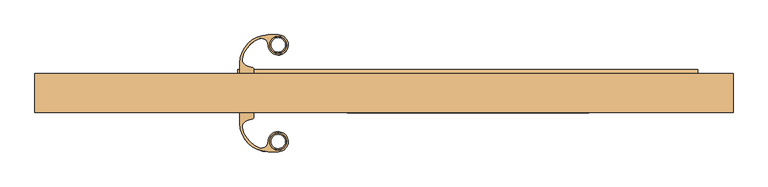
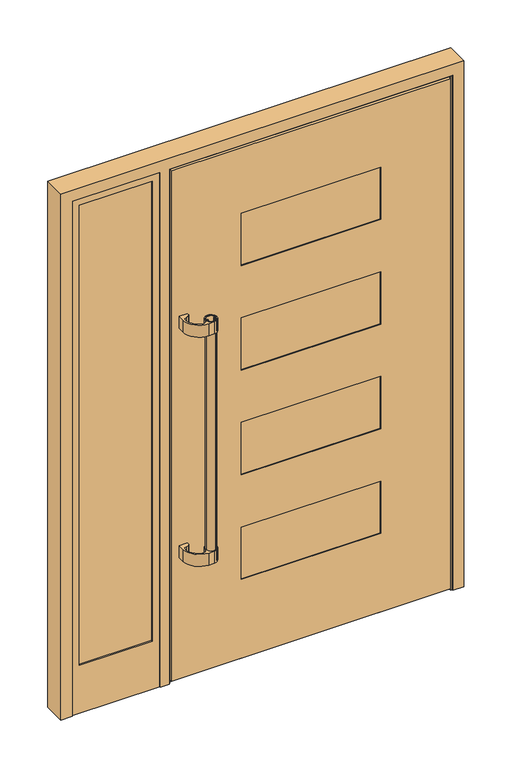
"""IFC4 building model written with IfcOpenShell, lengths in millimetres: door geometry, Jednokrilna vrata s fiksnim poljem : staklo."""

from ifc_helpers import new_model, si_unit, point, frame, frame_2d, origin, place, context, project, spatial, polyline, circle_curve, trimmed, segment, composite_curve, outline, extrude, faceted_brep, source, transform, mapped, element, save
from ifc_brep_helpers import plane_surface, cylinder_surface, advanced_brep


def door_73f70f86(model_context):
    return source(origin(), model_context, "Body", "SolidModel", [
        extrude(outline(composite_curve([segment(trimmed(circle_curve(frame_2d((-174.1484072, 128.9438952)), 19.0), [point((-193.1484072, 128.9438952))], [point((-155.1484072, 128.9438952))], False, "CARTESIAN"), True, "CONTINUOUS"), segment(trimmed(circle_curve(frame_2d((-174.1484072, 128.9438952)), 19.0), [point((-155.1484072, 128.9438952))], [point((-193.1484072, 128.9438952))], False, "CARTESIAN"), True, "CONTINUOUS")], self_intersect=False), holes=[composite_curve([segment(trimmed(circle_curve(frame_2d((-188.6084072, 128.9438952)), 1.55), [point((-187.5123917, 130.0399107))], [point((-187.5123917, 127.8478797))], True, "CARTESIAN"), True, "CONTINUOUS"), segment(polyline([(-187.5123917, 127.8478797), (-186.3657905, 127.8478797), (-186.3657905, 126.8767304)]), True, "CONTINUOUS"), segment(trimmed(circle_curve(frame_2d((-188.6084072, 128.9438952)), 3.05), [point((-186.3657905, 126.8767304))], [point((-188.6084072, 125.8938952))], False, "CARTESIAN"), True, "CONTINUOUS"), segment(polyline([(-188.6084072, 125.8938952), (-189.8550141, 125.8938952)]), True, "CONTINUOUS"), segment(trimmed(circle_curve(frame_2d((-174.1484072, 128.9438952)), 16.0), [point((-189.8550141, 125.8938952))], [point((-158.4418003, 125.8938952))], True, "CARTESIAN"), True, "CONTINUOUS"), segment(polyline([(-158.4418003, 125.8938952), (-159.6484072, 125.8938952)]), True, "CONTINUOUS"), segment(trimmed(circle_curve(frame_2d((-159.6484072, 128.9438952)), 3.05), [point((-159.6484072, 125.8938952))], [point((-161.891024, 126.8767304))], False, "CARTESIAN"), True, "CONTINUOUS"), segment(polyline([(-161.891024, 126.8767304), (-161.891024, 127.8478797), (-160.7444227, 127.8478797)]), True, "CONTINUOUS"), segment(trimmed(circle_curve(frame_2d((-159.6484072, 128.9438952)), 1.55), [point((-160.7444227, 127.8478797))], [point((-160.7444227, 130.0399107))], True, "CARTESIAN"), True, "CONTINUOUS"), segment(polyline([(-160.7444227, 130.0399107), (-161.891024, 130.0399107), (-161.891024, 131.0110599)]), True, "CONTINUOUS"), segment(trimmed(circle_curve(frame_2d((-159.6484072, 128.9438952)), 3.05), [point((-161.891024, 131.0110599))], [point((-159.6484072, 131.9938952))], False, "CARTESIAN"), True, "CONTINUOUS"), segment(polyline([(-159.6484072, 131.9938952), (-158.4418003, 131.9938952)]), True, "CONTINUOUS"), segment(trimmed(circle_curve(frame_2d((-174.1484072, 128.9438952)), 16.0), [point((-158.4418003, 131.9938952))], [point((-189.8550141, 131.9938952))], True, "CARTESIAN"), True, "CONTINUOUS"), segment(polyline([(-189.8550141, 131.9938952), (-188.6084072, 131.9938952)]), True, "CONTINUOUS"), segment(trimmed(circle_curve(frame_2d((-188.6084072, 128.9438952)), 3.05), [point((-188.6084072, 131.9938952))], [point((-186.3657905, 131.0110599))], False, "CARTESIAN"), True, "CONTINUOUS"), segment(polyline([(-186.3657905, 131.0110599), (-186.3657905, 130.0399107), (-187.5123917, 130.0399107)]), True, "CONTINUOUS")], self_intersect=False)]), frame((0.0, 0.0, 521.625), z_axis=(0.0, 0.0, 1.0), x_axis=(1.0, 0.0, 0.0)), (0.0, 0.0, 1.0), 1000.0),
        extrude(outline(composite_curve([segment(polyline([(-255.6952843, 63.4961329), (-260.6952843, 63.4961329), (-260.6952843, 87.6938952)]), True, "CONTINUOUS"), segment(trimmed(circle_curve(frame_2d((-196.6980434, 87.6938952)), 63.997241), [point((-260.6952843, 87.6938952))], [point((-196.6980434, 151.6911361))], False, "CARTESIAN"), True, "CONTINUOUS"), segment(polyline([(-196.6980434, 151.6911361), (-173.7941065, 151.6911361)]), True, "CONTINUOUS"), segment(trimmed(circle_curve(frame_2d((-174.2125516, 128.7515875)), 22.9433648), [point((-173.7941065, 151.6911361))], [point((-160.7762927, 147.3490318))], False, "CARTESIAN"), True, "CONTINUOUS"), segment(trimmed(circle_curve(frame_2d((-174.07067, 128.9479692)), 22.7010919), [point((-160.7762927, 147.3490318))], [point((-158.9256859, 112.0373504))], False, "CARTESIAN"), True, "CONTINUOUS"), segment(trimmed(circle_curve(frame_2d((-174.1534657, 129.0404174)), 22.8251959), [point((-158.9256859, 112.0373504))], [point((-187.5205217, 110.5387586))], False, "CARTESIAN"), True, "CONTINUOUS"), segment(trimmed(circle_curve(frame_2d((-174.2667746, 128.883584)), 22.631713), [point((-187.5205217, 110.5387586))], [point((-196.8984072, 128.9438952))], False, "CARTESIAN"), True, "CONTINUOUS"), segment(trimmed(circle_curve(frame_2d((-211.8983989, 128.9838687)), 15.0000449), [point((-196.8984072, 128.9438952))], [point((-217.066261, 143.0655784))], True, "CARTESIAN"), True, "CONTINUOUS"), segment(trimmed(circle_curve(frame_2d((-196.7676216, 87.7545934)), 58.9180773), [point((-217.066261, 143.0655784))], [point((-254.7631303, 98.1401991))], True, "CARTESIAN"), True, "CONTINUOUS"), segment(trimmed(circle_curve(frame_2d((-240.048263, 95.2098114)), 15.0038159), [point((-254.7631303, 98.1401991))], [point((-243.9315363, 80.7172381))], True, "CARTESIAN"), True, "CONTINUOUS"), segment(polyline([(-243.9315363, 80.7172381), (-232.4011891, 77.6276909)]), True, "CONTINUOUS"), segment(trimmed(circle_curve(frame_2d((-233.6952843, 72.7980618)), 5.0), [point((-232.4011891, 77.6276909))], [point((-228.6952843, 72.7980618))], False, "CARTESIAN"), True, "CONTINUOUS"), segment(polyline([(-228.6952843, 72.7980618), (-228.6952843, 63.4961329), (-255.6952843, 63.4961329)]), True, "CONTINUOUS")], self_intersect=False), holes=[composite_curve([segment(trimmed(circle_curve(frame_2d((-174.1484072, 128.9438952)), 19.25), [point((-193.3984072, 128.9438952))], [point((-154.8984072, 128.9438952))], True, "CARTESIAN"), True, "CONTINUOUS"), segment(trimmed(circle_curve(frame_2d((-174.1484072, 128.9438952)), 19.25), [point((-154.8984072, 128.9438952))], [point((-193.3984072, 128.9438952))], True, "CARTESIAN"), True, "CONTINUOUS")], self_intersect=False)]), frame((0.0, 0.0, 1471.625), z_axis=(0.0, 0.0, 1.0), x_axis=(1.0, 0.0, 0.0)), (0.0, 0.0, 1.0), 50.0),
        extrude(outline(composite_curve([segment(polyline([(-255.6952843, 63.4961329), (-260.6952843, 63.4961329), (-260.6952843, 87.6938952)]), True, "CONTINUOUS"), segment(trimmed(circle_curve(frame_2d((-196.6980434, 87.6938952)), 63.997241), [point((-260.6952843, 87.6938952))], [point((-196.6980434, 151.6911361))], False, "CARTESIAN"), True, "CONTINUOUS"), segment(polyline([(-196.6980434, 151.6911361), (-173.7941065, 151.6911361)]), True, "CONTINUOUS"), segment(trimmed(circle_curve(frame_2d((-174.2125516, 128.7515875)), 22.9433648), [point((-173.7941065, 151.6911361))], [point((-160.7762927, 147.3490318))], False, "CARTESIAN"), True, "CONTINUOUS"), segment(trimmed(circle_curve(frame_2d((-174.07067, 128.9479692)), 22.7010919), [point((-160.7762927, 147.3490318))], [point((-158.9256859, 112.0373504))], False, "CARTESIAN"), True, "CONTINUOUS"), segment(trimmed(circle_curve(frame_2d((-174.1534657, 129.0404174)), 22.8251959), [point((-158.9256859, 112.0373504))], [point((-187.5205217, 110.5387586))], False, "CARTESIAN"), True, "CONTINUOUS"), segment(trimmed(circle_curve(frame_2d((-174.2667746, 128.883584)), 22.631713), [point((-187.5205217, 110.5387586))], [point((-196.8984072, 128.9438952))], False, "CARTESIAN"), True, "CONTINUOUS"), segment(trimmed(circle_curve(frame_2d((-211.8983989, 128.9838687)), 15.0000449), [point((-196.8984072, 128.9438952))], [point((-217.066261, 143.0655784))], True, "CARTESIAN"), True, "CONTINUOUS"), segment(trimmed(circle_curve(frame_2d((-196.7676216, 87.7545934)), 58.9180773), [point((-217.066261, 143.0655784))], [point((-254.7631303, 98.1401991))], True, "CARTESIAN"), True, "CONTINUOUS"), segment(trimmed(circle_curve(frame_2d((-240.048263, 95.2098114)), 15.0038159), [point((-254.7631303, 98.1401991))], [point((-243.9315363, 80.7172381))], True, "CARTESIAN"), True, "CONTINUOUS"), segment(polyline([(-243.9315363, 80.7172381), (-232.4011891, 77.6276909)]), True, "CONTINUOUS"), segment(trimmed(circle_curve(frame_2d((-233.6952843, 72.7980618)), 5.0), [point((-232.4011891, 77.6276909))], [point((-228.6952843, 72.7980618))], False, "CARTESIAN"), True, "CONTINUOUS"), segment(polyline([(-228.6952843, 72.7980618), (-228.6952843, 63.4961329), (-255.6952843, 63.4961329)]), True, "CONTINUOUS")], self_intersect=False), holes=[composite_curve([segment(trimmed(circle_curve(frame_2d((-174.1484072, 128.9438952)), 19.25), [point((-193.3984072, 128.9438952))], [point((-154.8984072, 128.9438952))], True, "CARTESIAN"), True, "CONTINUOUS"), segment(trimmed(circle_curve(frame_2d((-174.1484072, 128.9438952)), 19.25), [point((-154.8984072, 128.9438952))], [point((-193.3984072, 128.9438952))], True, "CARTESIAN"), True, "CONTINUOUS")], self_intersect=False)]), frame((0.0, 0.0, 521.625), z_axis=(0.0, 0.0, 1.0), x_axis=(1.0, 0.0, 0.0)), (0.0, 0.0, 1.0), 50.0),
        extrude(outline(composite_curve([segment(trimmed(circle_curve(frame_2d((-174.1484072, -90.4477622)), 19.0), [point((-193.1484072, -90.4477622))], [point((-155.1484072, -90.4477622))], False, "CARTESIAN"), True, "CONTINUOUS"), segment(trimmed(circle_curve(frame_2d((-174.1484072, -90.4477622)), 19.0), [point((-155.1484072, -90.4477622))], [point((-193.1484072, -90.4477622))], False, "CARTESIAN"), True, "CONTINUOUS")], self_intersect=False), holes=[composite_curve([segment(polyline([(-187.5123917, -91.5437777), (-186.3657905, -91.5437777), (-186.3657905, -92.514927)]), True, "CONTINUOUS"), segment(trimmed(circle_curve(frame_2d((-188.6084072, -90.4477622)), 3.05), [point((-186.3657905, -92.514927))], [point((-188.6084072, -93.4977622))], False, "CARTESIAN"), True, "CONTINUOUS"), segment(polyline([(-188.6084072, -93.4977622), (-189.8550141, -93.4977622)]), True, "CONTINUOUS"), segment(trimmed(circle_curve(frame_2d((-174.1484072, -90.4477622)), 16.0), [point((-189.8550141, -93.4977622))], [point((-158.4418003, -93.4977622))], True, "CARTESIAN"), True, "CONTINUOUS"), segment(polyline([(-158.4418003, -93.4977622), (-159.6484072, -93.4977622)]), True, "CONTINUOUS"), segment(trimmed(circle_curve(frame_2d((-159.6484072, -90.4477622)), 3.05), [point((-159.6484072, -93.4977622))], [point((-161.891024, -92.514927))], False, "CARTESIAN"), True, "CONTINUOUS"), segment(polyline([(-161.891024, -92.514927), (-161.891024, -91.5437777), (-160.7444227, -91.5437777)]), True, "CONTINUOUS"), segment(trimmed(circle_curve(frame_2d((-159.6484072, -90.4477622)), 1.55), [point((-160.7444227, -91.5437777))], [point((-160.7444227, -89.3517467))], True, "CARTESIAN"), True, "CONTINUOUS"), segment(polyline([(-160.7444227, -89.3517467), (-161.891024, -89.3517467), (-161.891024, -88.3805975)]), True, "CONTINUOUS"), segment(trimmed(circle_curve(frame_2d((-159.6484072, -90.4477622)), 3.05), [point((-161.891024, -88.3805975))], [point((-159.6484072, -87.3977622))], False, "CARTESIAN"), True, "CONTINUOUS"), segment(polyline([(-159.6484072, -87.3977622), (-158.4418003, -87.3977622)]), True, "CONTINUOUS"), segment(trimmed(circle_curve(frame_2d((-174.1484072, -90.4477622)), 16.0), [point((-158.4418003, -87.3977622))], [point((-189.8550141, -87.3977622))], True, "CARTESIAN"), True, "CONTINUOUS"), segment(polyline([(-189.8550141, -87.3977622), (-188.6084072, -87.3977622)]), True, "CONTINUOUS"), segment(trimmed(circle_curve(frame_2d((-188.6084072, -90.4477622)), 3.05), [point((-188.6084072, -87.3977622))], [point((-186.3657905, -88.3805975))], False, "CARTESIAN"), True, "CONTINUOUS"), segment(polyline([(-186.3657905, -88.3805975), (-186.3657905, -89.3517467), (-187.5123917, -89.3517467)]), True, "CONTINUOUS"), segment(trimmed(circle_curve(frame_2d((-188.6084072, -90.4477622)), 1.55), [point((-187.5123917, -89.3517467))], [point((-187.5123917, -91.5437777))], True, "CARTESIAN"), True, "CONTINUOUS")], self_intersect=False)]), frame((0.0, 0.0, 521.625), z_axis=(0.0, 0.0, 1.0), x_axis=(1.0, 0.0, 0.0)), (0.0, 0.0, 1.0), 1000.0),
        extrude(outline(composite_curve([segment(polyline([(-255.6952843, -25.0), (-228.6952843, -25.0), (-228.6952843, -34.3019289)]), True, "CONTINUOUS"), segment(trimmed(circle_curve(frame_2d((-233.6952843, -34.3019289)), 5.0), [point((-228.6952843, -34.3019289))], [point((-232.4011891, -39.131558))], False, "CARTESIAN"), True, "CONTINUOUS"), segment(polyline([(-232.4011891, -39.131558), (-243.9315363, -42.2211052)]), True, "CONTINUOUS"), segment(trimmed(circle_curve(frame_2d((-240.048263, -56.7136785)), 15.0038159), [point((-243.9315363, -42.2211052))], [point((-254.7631303, -59.6440661))], True, "CARTESIAN"), True, "CONTINUOUS"), segment(trimmed(circle_curve(frame_2d((-196.7676216, -49.2584604)), 58.9180773), [point((-254.7631303, -59.6440661))], [point((-217.066261, -104.5694455))], True, "CARTESIAN"), True, "CONTINUOUS"), segment(trimmed(circle_curve(frame_2d((-211.8983989, -90.4877358)), 15.0000449), [point((-217.066261, -104.5694455))], [point((-196.8984072, -90.4477622))], True, "CARTESIAN"), True, "CONTINUOUS"), segment(trimmed(circle_curve(frame_2d((-174.2667746, -90.3874511)), 22.631713), [point((-196.8984072, -90.4477622))], [point((-187.5205217, -72.0426256))], False, "CARTESIAN"), True, "CONTINUOUS"), segment(trimmed(circle_curve(frame_2d((-174.1534657, -90.5442845)), 22.8251959), [point((-187.5205217, -72.0426256))], [point((-158.9256859, -73.5412175))], False, "CARTESIAN"), True, "CONTINUOUS"), segment(trimmed(circle_curve(frame_2d((-174.07067, -90.4518363)), 22.7010919), [point((-158.9256859, -73.5412175))], [point((-160.7762927, -108.8528989))], False, "CARTESIAN"), True, "CONTINUOUS"), segment(trimmed(circle_curve(frame_2d((-174.2125516, -90.2554545)), 22.9433648), [point((-160.7762927, -108.8528989))], [point((-173.7941065, -113.1950032))], False, "CARTESIAN"), True, "CONTINUOUS"), segment(polyline([(-173.7941065, -113.1950032), (-196.6980434, -113.1950032)]), True, "CONTINUOUS"), segment(trimmed(circle_curve(frame_2d((-196.6980434, -49.1977622)), 63.997241), [point((-196.6980434, -113.1950032))], [point((-260.6952843, -49.1977622))], False, "CARTESIAN"), True, "CONTINUOUS"), segment(polyline([(-260.6952843, -49.1977622), (-260.6952843, -25.0), (-255.6952843, -25.0)]), True, "CONTINUOUS")], self_intersect=False), holes=[composite_curve([segment(trimmed(circle_curve(frame_2d((-174.1484072, -90.4477622)), 19.25), [point((-193.3984072, -90.4477622))], [point((-154.8984072, -90.4477622))], True, "CARTESIAN"), True, "CONTINUOUS"), segment(trimmed(circle_curve(frame_2d((-174.1484072, -90.4477622)), 19.25), [point((-154.8984072, -90.4477622))], [point((-193.3984072, -90.4477622))], True, "CARTESIAN"), True, "CONTINUOUS")], self_intersect=False)]), frame((0.0, 0.0, 1471.625), z_axis=(0.0, 0.0, 1.0), x_axis=(1.0, 0.0, 0.0)), (0.0, 0.0, 1.0), 50.0),
        extrude(outline(composite_curve([segment(polyline([(-255.6952843, -25.0), (-228.6952843, -25.0), (-228.6952843, -34.3019289)]), True, "CONTINUOUS"), segment(trimmed(circle_curve(frame_2d((-233.6952843, -34.3019289)), 5.0), [point((-228.6952843, -34.3019289))], [point((-232.4011891, -39.131558))], False, "CARTESIAN"), True, "CONTINUOUS"), segment(polyline([(-232.4011891, -39.131558), (-243.9315363, -42.2211052)]), True, "CONTINUOUS"), segment(trimmed(circle_curve(frame_2d((-240.048263, -56.7136785)), 15.0038159), [point((-243.9315363, -42.2211052))], [point((-254.7631303, -59.6440661))], True, "CARTESIAN"), True, "CONTINUOUS"), segment(trimmed(circle_curve(frame_2d((-196.7676216, -49.2584604)), 58.9180773), [point((-254.7631303, -59.6440661))], [point((-217.066261, -104.5694455))], True, "CARTESIAN"), True, "CONTINUOUS"), segment(trimmed(circle_curve(frame_2d((-211.8983989, -90.4877358)), 15.0000449), [point((-217.066261, -104.5694455))], [point((-196.8984072, -90.4477622))], True, "CARTESIAN"), True, "CONTINUOUS"), segment(trimmed(circle_curve(frame_2d((-174.2667746, -90.3874511)), 22.631713), [point((-196.8984072, -90.4477622))], [point((-187.5205217, -72.0426256))], False, "CARTESIAN"), True, "CONTINUOUS"), segment(trimmed(circle_curve(frame_2d((-174.1534657, -90.5442845)), 22.8251959), [point((-187.5205217, -72.0426256))], [point((-158.9256859, -73.5412175))], False, "CARTESIAN"), True, "CONTINUOUS"), segment(trimmed(circle_curve(frame_2d((-174.07067, -90.4518363)), 22.7010919), [point((-158.9256859, -73.5412175))], [point((-160.7762927, -108.8528989))], False, "CARTESIAN"), True, "CONTINUOUS"), segment(trimmed(circle_curve(frame_2d((-174.2125516, -90.2554545)), 22.9433648), [point((-160.7762927, -108.8528989))], [point((-173.7941065, -113.1950032))], False, "CARTESIAN"), True, "CONTINUOUS"), segment(polyline([(-173.7941065, -113.1950032), (-196.6980434, -113.1950032)]), True, "CONTINUOUS"), segment(trimmed(circle_curve(frame_2d((-196.6980434, -49.1977622)), 63.997241), [point((-196.6980434, -113.1950032))], [point((-260.6952843, -49.1977622))], False, "CARTESIAN"), True, "CONTINUOUS"), segment(polyline([(-260.6952843, -49.1977622), (-260.6952843, -25.0), (-255.6952843, -25.0)]), True, "CONTINUOUS")], self_intersect=False), holes=[composite_curve([segment(trimmed(circle_curve(frame_2d((-174.1484072, -90.4477622)), 19.25), [point((-193.3984072, -90.4477622))], [point((-154.8984072, -90.4477622))], True, "CARTESIAN"), True, "CONTINUOUS"), segment(trimmed(circle_curve(frame_2d((-174.1484072, -90.4477622)), 19.25), [point((-154.8984072, -90.4477622))], [point((-193.3984072, -90.4477622))], True, "CARTESIAN"), True, "CONTINUOUS")], self_intersect=False)]), frame((0.0, 0.0, 521.625), z_axis=(0.0, 0.0, 1.0), x_axis=(1.0, 0.0, 0.0)), (0.0, 0.0, 1.0), 50.0),
        extrude(outline(polyline([(528.5040773, 59.8961329), (528.5040773, -21.5), (-17.4993605, -21.5), (-17.4993605, 59.8961329), (528.5040773, 59.8961329)])), frame((0.0, 0.0, 299.175), z_axis=(0.0, 0.0, 1.0), x_axis=(1.0, 0.0, 0.0)), (0.0, 0.0, 1.0), 1626.0921048),
        faceted_brep([(776.0001619, 55.0006316, 34.3057913), (776.0001619, 56.2006316, 34.3057913), (776.0001619, 56.2006316, 43.8984108), (776.0001619, 64.4629528, 43.8984108), (776.0001619, 72.0042669, 35.8113415), (776.0001619, 72.0042669, 33.9357913), (776.0001619, 73.5042669, 33.9357913), (776.0001619, 73.5042669, 35.9623235), (776.0001619, 65.0744489, 45.0021965), (776.0001619, 63.4961329, 45.0021965), (776.0001619, 63.4961329, 2110.4978035), (776.0001619, 55.0006316, 2110.4978035), (-264.9954451, 55.0006316, 34.3057913), (-264.9954451, 56.2006316, 34.3057913), (-264.9954451, 56.2006316, 43.8984108), (-264.9954451, 64.4629528, 43.8984108), (-264.9954451, 72.0042669, 35.8113415), (-264.9954451, 72.0042669, 33.9357913), (-264.9954451, 73.5042669, 33.9357913), (-264.9954451, 73.5042669, 35.9623235), (-264.9954451, 65.0744489, 45.0021965), (-264.9954451, 63.4961329, 45.0021965), (-264.9954451, 63.4961329, 2110.4978035), (528.5040773, 63.4961329, 996.34125), (-17.4993605, 63.4961329, 996.34125), (-17.4993605, 63.4961329, 779.4525), (528.5040773, 63.4961329, 779.4525), (528.5040773, 63.4961329, 562.56375), (-17.4993605, 63.4961329, 562.56375), (-17.4993605, 63.4961329, 345.675), (528.5040773, 63.4961329, 345.675), (528.5040773, 63.4961329, 1863.89625), (-17.4993605, 63.4961329, 1863.89625), (-17.4993605, 63.4961329, 1647.0075), (528.5040773, 63.4961329, 1647.0075), (528.5040773, 63.4961329, 1430.11875), (-17.4993605, 63.4961329, 1430.11875), (-17.4993605, 63.4961329, 1213.23), (528.5040773, 63.4961329, 1213.23), (790.0, 55.0006316, 2124.4976416), (790.0, 55.0006316, 31.0023584), (-278.9952832, 55.0006316, 31.0023584), (-278.9952832, 55.0006316, 2124.4976416), (-264.9954451, 55.0006316, 2110.4978035), (720.5040773, -21.5, 2055.0017189), (720.5040773, 59.8961329, 2055.0017189), (720.5040773, 59.8961329, 100.4982811), (720.5040773, -21.5, 100.4982811), (-209.4993605, 59.8961329, 2055.0017189), (-209.4993605, 59.8961329, 100.4982811), (-17.4993605, 59.8961329, 996.34125), (528.5040773, 59.8961329, 996.34125), (528.5040773, 59.8961329, 779.4525), (-17.4993605, 59.8961329, 779.4525), (-17.4993605, 59.8961329, 562.56375), (528.5040773, 59.8961329, 562.56375), (528.5040773, 59.8961329, 345.675), (-17.4993605, 59.8961329, 345.675), (-17.4993605, 59.8961329, 1863.89625), (528.5040773, 59.8961329, 1863.89625), (528.5040773, 59.8961329, 1647.0075), (-17.4993605, 59.8961329, 1647.0075), (-17.4993605, 59.8961329, 1430.11875), (528.5040773, 59.8961329, 1430.11875), (528.5040773, 59.8961329, 1213.23), (-17.4993605, 59.8961329, 1213.23), (-209.4993605, -21.5, 100.4982811), (-209.4993605, -21.5, 2055.0017189), (528.5040773, -21.5, 996.34125), (-17.4993605, -21.5, 996.34125), (-17.4993605, -21.5, 779.4525), (528.5040773, -21.5, 779.4525), (528.5040773, -21.5, 562.56375), (-17.4993605, -21.5, 562.56375), (-17.4993605, -21.5, 345.675), (528.5040773, -21.5, 345.675), (528.5040773, -21.5, 1863.89625), (-17.4993605, -21.5, 1863.89625), (-17.4993605, -21.5, 1647.0075), (528.5040773, -21.5, 1647.0075), (528.5040773, -21.5, 1430.11875), (-17.4993605, -21.5, 1430.11875), (-17.4993605, -21.5, 1213.23), (528.5040773, -21.5, 1213.23), (801.0000012, -25.0, 2135.4976428), (-289.9952843, -25.0, 2135.4976428), (-289.9952843, -25.0, 20.0023572), (801.0000012, -25.0, 20.0023572), (-17.4993605, -25.0, 996.34125), (528.5040773, -25.0, 996.34125), (528.5040773, -25.0, 779.4525), (-17.4993605, -25.0, 779.4525), (-17.4993605, -25.0, 562.56375), (528.5040773, -25.0, 562.56375), (528.5040773, -25.0, 345.675), (-17.4993605, -25.0, 345.675), (-17.4993605, -25.0, 1863.89625), (528.5040773, -25.0, 1863.89625), (528.5040773, -25.0, 1647.0075), (-17.4993605, -25.0, 1647.0075), (-17.4993605, -25.0, 1430.11875), (528.5040773, -25.0, 1430.11875), (528.5040773, -25.0, 1213.23), (-17.4993605, -25.0, 1213.23), (801.0000012, -13.0033697, 20.0023572), (801.0000012, -13.0033697, 2135.4976428), (-289.9952843, -13.0033697, 20.0023572), (-289.9952843, -13.0033697, 2135.4976428), (790.0, -13.0033697, 31.0023584), (790.0, -13.0033697, 2124.4976416), (-278.9952832, -13.0033697, 2124.4976416), (-278.9952832, -13.0033697, 31.0023584)], [[[0, 1, 2, 3, 4, 5, 6, 7, 8, 9, 10, 11]], [[12, 13, 1, 0]], [[13, 14, 2, 1]], [[14, 15, 3, 2]], [[15, 16, 4, 3]], [[16, 17, 5, 4]], [[17, 18, 6, 5]], [[18, 19, 7, 6]], [[19, 20, 8, 7]], [[8, 20, 21, 9]], [[10, 9, 21, 22], [23, 24, 25, 26], [27, 28, 29, 30], [31, 32, 33, 34], [35, 36, 37, 38]], [[39, 40, 41, 42], [0, 11, 43, 12]], [[44, 45, 46, 47]], [[46, 45, 48, 49], [50, 51, 52, 53], [54, 55, 56, 57], [58, 59, 60, 61], [62, 63, 64, 65]], [[47, 46, 49, 66]], [[44, 47, 66, 67], [68, 69, 70, 71], [72, 73, 74, 75], [76, 77, 78, 79], [80, 81, 82, 83]], [[84, 85, 86, 87], [88, 89, 90, 91], [92, 93, 94, 95], [96, 97, 98, 99], [100, 101, 102, 103]], [[104, 105, 84, 87]], [[106, 104, 87, 86]], [[105, 104, 106, 107], [108, 109, 110, 111]], [[109, 108, 40, 39]], [[40, 108, 111, 41]], [[66, 49, 48, 67]], [[107, 106, 86, 85]], [[41, 111, 110, 42]], [[43, 22, 21, 20, 19, 18, 17, 16, 15, 14, 13, 12]], [[36, 62, 65, 37]], [[81, 100, 103, 82]], [[37, 65, 64, 38]], [[82, 103, 102, 83]], [[63, 35, 38, 64]], [[101, 80, 83, 102]], [[23, 51, 50, 24]], [[68, 89, 88, 69]], [[51, 23, 26, 52]], [[89, 68, 71, 90]], [[25, 53, 52, 26]], [[70, 91, 90, 71]], [[24, 50, 53, 25]], [[69, 88, 91, 70]], [[27, 55, 54, 28]], [[72, 93, 92, 73]], [[55, 27, 30, 56]], [[93, 72, 75, 94]], [[29, 57, 56, 30]], [[74, 95, 94, 75]], [[28, 54, 57, 29]], [[73, 92, 95, 74]], [[43, 11, 10, 22]], [[45, 44, 67, 48]], [[105, 107, 85, 84]], [[109, 39, 42, 110]], [[31, 59, 58, 32]], [[76, 97, 96, 77]], [[32, 58, 61, 33]], [[77, 96, 99, 78]], [[33, 61, 60, 34]], [[78, 99, 98, 79]], [[59, 31, 34, 60]], [[97, 76, 79, 98]], [[35, 63, 62, 36]], [[80, 101, 100, 81]]]),
        extrude(outline(polyline([(-348.9976416, -16.0038601), (-665.9975806, -16.0038601), (-665.9975806, 55.9961361), (-348.9976416, 55.9961361), (-348.9976416, -16.0038601)])), frame((0.0, 0.0, 193.989811), z_axis=(0.0, 0.0, 1.0), x_axis=(1.0, 0.0, 0.0)), (0.0, 0.0, 1.0), 1951.510128),
        advanced_brep(
        [(-649.9976416, 63.4999687, 2115.5), (-649.9976416, 63.4999687, 10.0), (-724.4976416, 63.4999687, 10.0), (-724.4976416, 63.4999687, 2190.0), (855.5023584, 63.4999687, 2190.0), (855.5023584, 63.4999687, 10.0), (-364.9976416, 63.4999687, 10.0), (-364.9976416, 63.4999687, 2115.5), (-269.9979938, 63.4999687, 2115.5), (-269.9979938, 63.4999687, 25.5020089), (781.0023584, 63.4999687, 25.5020089), (781.0023584, 63.4999687, 2115.5), (-649.9976416, 55.9961361, 2115.5), (-649.9976416, 55.9961361, 209.9896504), (-649.9976416, 62.9999687, 209.9896504), (-649.9976416, 62.9999687, 10.0), (-364.9976416, 62.9999687, 10.0), (855.5023584, -25.0, 10.0), (811.0022974, -25.0, 10.0), (811.0022974, -21.5038326, 10.0), (806.0022974, -21.5038326, 10.0), (806.0022974, -13.2027997, 10.0), (796.4964362, -13.2027997, 10.0), (796.4964362, -13.0075544, 10.0), (-294.9978176, -12.9392706, 10.0), (-294.9978176, -21.5038326, 10.0), (-299.9978176, -21.5038326, 10.0), (-299.9978176, -25.0, 10.0), (-334.9978175, -25.0, 10.0), (-334.9978175, -21.5038639, 10.0), (-679.9975806, -21.5038326, 10.0), (-679.9975806, -25.0, 10.0), (-724.4976416, -25.0, 10.0), (-724.4976416, -25.0, 2190.0), (855.5023584, -25.0, 2190.0), (-364.9976416, 62.9999687, 209.9896504), (-364.9976416, 55.9961798, 209.9896504), (-364.9976416, 55.9961361, 2115.5), (-269.9979938, 55.0006899, 2115.5), (-269.9979938, 55.0006899, 25.5020089), (-285.4977719, 55.0006899, 25.5020089), (-285.4977719, 35.9465432, 25.5020089), (796.4964362, 35.9465432, 25.5020089), (796.4964362, 55.0044673, 25.5020089), (781.0023584, 55.0006899, 25.5020089), (781.0023584, 55.0044673, 2115.5), (-679.9975806, -25.0, 2145.499939), (-334.9978175, -25.0, 2145.499939), (-299.9978176, -25.0, 2145.499939), (811.0022974, -25.0, 2145.499939), (-679.9975806, -21.5038326, 2145.499939), (-334.9978175, -21.5038639, 2145.499939), (-334.9978175, -21.5038639, 2140.499939), (-299.9978176, -21.5038326, 2145.499939), (811.0022974, -21.5038326, 2145.499939), (-649.9975806, -16.0038639, 2115.499939), (-649.9975806, -21.5038326, 2115.499939), (-649.9975806, -21.5038326, 209.9898263), (-649.9975806, -16.0038639, 209.9898263), (-364.9978175, -21.5038326, 2115.499939), (-364.9978175, -21.5038326, 209.9898263), (-364.9978175, -16.0038639, 2115.499939), (-364.9978175, -16.0038639, 209.9898263), (-665.9975806, -16.0038639, 193.989811), (-665.9975806, -16.0038639, 2131.499939), (-348.9976416, -16.0038639, 2131.499939), (-348.9976416, -16.0038639, 193.989811), (-665.9975806, 55.9961361, 2131.499939), (-665.9975806, 55.9961361, 193.989811), (-348.9976416, 55.9961823, 193.989811), (-348.9976416, -13.2027997, 2131.499939), (-348.9976416, 55.9961361, 2131.499939), (-348.9976416, 55.9961361, 2115.5), (-294.9978176, -21.5038326, 2140.499939), (806.0022974, -21.5038326, 2140.499939), (806.0022974, -13.2027997, 2140.499939), (796.4964362, -13.2027997, 2130.9940778), (-294.9978176, -13.2027997, 2140.499939), (-294.9978176, -13.2027997, 2130.9940778), (796.4964362, 55.0044673, 2130.9940778), (796.4964362, 25.8188024, 29.5820648), (796.4964362, 15.216265, 29.7334181), (796.4964362, 3.7814498, 25.5020089), (796.4964362, -13.0075544, 25.5020089), (-285.4977719, -12.9392706, 25.5020089), (-285.4977719, -12.9392706, 2130.9940778), (-294.9978176, -12.9392706, 2130.9940778), (-285.4977719, 3.7814498, 25.5020089), (-285.4977719, 55.0006899, 2130.9940778), (-285.4977719, 15.216265, 29.7334181), (-285.4977719, 25.8188024, 29.5820648)],
        [
            (0, 1),
            (1, 2),
            (2, 3),
            (3, 4),
            (4, 5),
            (5, 6),
            (6, 7),
            (7, 0),
            (8, 9),
            (9, 10),
            (10, 11),
            (11, 8),
            (0, 12),
            (12, 13),
            (13, 14),
            (14, 15),
            (15, 1),
            (15, 16),
            (16, 6),
            (5, 17),
            (17, 18),
            (18, 19),
            (19, 20),
            (20, 21),
            (21, 22),
            (22, 23),
            (23, 24),
            (24, 25),
            (25, 26),
            (26, 27),
            (27, 28),
            (28, 29),
            (29, 30),
            (30, 31),
            (31, 32),
            (32, 2),
            (32, 33),
            (33, 3),
            (34, 17),
            (4, 34),
            (16, 35),
            (35, 36),
            (36, 37),
            (37, 7),
            (8, 38),
            (38, 39),
            (39, 9),
            (39, 40),
            (40, 41),
            (41, 42),
            (42, 43),
            (43, 44),
            (44, 10),
            (45, 11),
            (44, 45),
            (31, 46),
            (46, 47),
            (47, 28),
            (27, 48),
            (48, 49),
            (49, 18),
            (34, 33),
            (30, 50),
            (50, 46),
            (47, 51),
            (51, 52),
            (52, 29),
            (26, 53),
            (53, 48),
            (54, 19),
            (49, 54),
            (55, 56),
            (56, 57),
            (57, 58),
            (58, 55),
            (51, 50),
            (56, 59),
            (59, 60),
            (60, 57),
            (61, 62),
            (62, 60),
            (59, 61),
            (62, 58),
            (63, 64),
            (64, 65),
            (65, 66),
            (66, 63),
            (61, 55),
            (67, 64),
            (63, 68),
            (68, 67),
            (69, 66),
            (65, 70),
            (70, 71),
            (71, 72),
            (72, 69),
            (69, 68),
            (71, 67),
            (12, 37),
            (36, 13),
            (35, 14),
            (25, 73),
            (73, 74),
            (74, 20),
            (54, 53),
            (74, 75),
            (75, 21),
            (76, 22),
            (75, 77),
            (77, 78),
            (78, 76),
            (76, 79),
            (79, 43),
            (42, 80),
            (80, 81, circle_curve(frame((796.4964362, 20.3216639, 15.936763), z_axis=(1.0, 0.0, 0.0), x_axis=(0.0, 0.3736760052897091, 0.9275592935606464)), 14.7109752)),
            (81, 82),
            (82, 83),
            (83, 23),
            (83, 84),
            (84, 85),
            (85, 86),
            (86, 24),
            (86, 78),
            (77, 73),
            (82, 87),
            (87, 84),
            (88, 85),
            (87, 89),
            (89, 90, circle_curve(frame((-285.4977719, 20.3216639, 15.936763), z_axis=(-1.0, 0.0, 0.0), x_axis=(0.0, 0.3736760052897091, 0.9275592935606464)), 14.7109752)),
            (90, 41),
            (40, 88),
            (81, 89),
            (80, 90),
            (38, 45),
            (79, 88),
        ],
        [
            plane_surface(frame((-348.9976416, 63.4999687, 2115.5), z_axis=(0.0, 1.0, 0.0), x_axis=(-1.0, 0.0, 0.0))),
            plane_surface(frame((-649.9976416, 55.9961361, 2115.5), z_axis=(1.0, 0.0, 0.0), x_axis=(0.0, 0.0, -1.0))),
            plane_surface(frame((-724.4976416, 63.4999687, 10.0), z_axis=(0.0, 0.0, -1.0), x_axis=(0.0, -1.0, 0.0))),
            plane_surface(frame((-724.4976416, 63.4999687, 2190.0), z_axis=(-1.0, 0.0, 0.0), x_axis=(0.0, 0.0, -1.0))),
            plane_surface(frame((855.5023584, -25.0, 2190.0), z_axis=(1.0, 0.0, 0.0), x_axis=(0.0, 0.0, -1.0))),
            plane_surface(frame((-364.9976416, 63.4999687, 2190.0), z_axis=(-1.0, 0.0, 0.0), x_axis=(0.0, 0.0, -1.0))),
            plane_surface(frame((-269.9979938, 55.0006899, 2190.0), z_axis=(1.0, 0.0, 0.0), x_axis=(0.0, 0.0, -1.0))),
            plane_surface(frame((-348.9976416, 35.9465432, 25.5020089), z_axis=(0.0, 0.0, 1.0), x_axis=(1.0, 0.0, 0.0))),
            plane_surface(frame((781.0023584, 63.4999687, 2115.5), z_axis=(-1.0, 0.0, 0.0), x_axis=(0.0, 0.0, -1.0))),
            plane_surface(frame((-348.9976416, -25.0, 2190.0), z_axis=(0.0, -1.0, 0.0), x_axis=(-1.0, 0.0, 0.0))),
            plane_surface(frame((-679.9975806, -25.0, 2145.499939), z_axis=(1.0, 0.0, 0.0), x_axis=(0.0, 0.0, -1.0))),
            plane_surface(frame((-334.9978175, -21.5038639, 2190.0), z_axis=(-1.0, 0.0, 0.0), x_axis=(0.0, 0.0, -1.0))),
            plane_surface(frame((-299.9978176, -25.0, 2190.0), z_axis=(1.0, 0.0, 0.0), x_axis=(0.0, 0.0, -1.0))),
            plane_surface(frame((811.0022974, -21.5038326, 2145.499939), z_axis=(-1.0, 0.0, 0.0), x_axis=(0.0, 0.0, -1.0))),
            plane_surface(frame((-649.9975806, -21.5038326, 2115.499939), z_axis=(1.0, 0.0, 0.0), x_axis=(0.0, 0.0, -1.0))),
            plane_surface(frame((-348.9976416, -21.5038326, 2145.499939), z_axis=(0.0, -1.0, 0.0), x_axis=(-1.0, 0.0, 0.0))),
            plane_surface(frame((-364.9978175, -16.0038639, 2190.0), z_axis=(-1.0, 0.0, 0.0), x_axis=(0.0, 0.0, -1.0))),
            plane_surface(frame((-724.4976416, -21.5025944, 209.9898263), z_axis=(0.0, 0.0, 1.0), x_axis=(1.0, 0.0, 0.0))),
            plane_surface(frame((-348.9976416, -16.0038639, 2115.499939), z_axis=(0.0, 1.0, 0.0), x_axis=(-1.0, 0.0, 0.0))),
            plane_surface(frame((-665.9975806, -16.0038639, 2131.499939), z_axis=(1.0, 0.0, 0.0), x_axis=(0.0, 0.0, -1.0))),
            plane_surface(frame((-348.9976416, 55.9961361, 2190.0), z_axis=(-1.0, 0.0, 0.0), x_axis=(0.0, 0.0, -1.0))),
            plane_surface(frame((-724.4976416, -16.0038177, 193.989811), z_axis=(0.0, 0.0, 1.0), x_axis=(1.0, 0.0, 0.0))),
            plane_surface(frame((-348.9976416, 55.9961361, 2131.499939), z_axis=(0.0, -1.0, 0.0), x_axis=(-1.0, 0.0, 0.0))),
            plane_surface(frame((-724.4976416, 61.0498488, 209.9896504), z_axis=(0.0, 0.0, 1.0), x_axis=(1.0, 0.0, 0.0))),
            plane_surface(frame((-724.4976416, 62.9999687, 209.9896504), z_axis=(0.0, 1.0, 0.0), x_axis=(1.0, 0.0, 0.0))),
            plane_surface(frame((-299.9978176, -21.5038326, 2190.0), z_axis=(0.0, -1.0, 0.0), x_axis=(0.0, 0.0, -1.0))),
            plane_surface(frame((806.0022974, -13.2027997, 2140.499939), z_axis=(-1.0, 0.0, 0.0), x_axis=(0.0, 0.0, -1.0))),
            plane_surface(frame((-348.9976416, -13.2027997, 2130.9940778), z_axis=(0.0, -1.0, 0.0), x_axis=(1.0, 0.0, 0.0))),
            plane_surface(frame((796.4964362, 55.0044673, 2130.9940778), z_axis=(-1.0, 0.0, 0.0), x_axis=(0.0, 0.0, -1.0))),
            plane_surface(frame((-294.9978176, -12.9392706, 2190.0), z_axis=(0.0, -1.0, 0.0), x_axis=(0.0, 0.0, -1.0))),
            plane_surface(frame((-294.9978176, -21.5038326, 2190.0), z_axis=(1.0, 0.0, 0.0), x_axis=(0.0, 0.0, -1.0))),
            plane_surface(frame((-348.9976416, -13.0075544, 25.5020089), z_axis=(0.0, 0.0, 1.0), x_axis=(1.0, 0.0, 0.0))),
            plane_surface(frame((-285.4977719, -12.9392706, 2190.0), z_axis=(1.0, 0.0, 0.0), x_axis=(0.0, 0.0, -1.0))),
            plane_surface(frame((-348.9976416, 3.7814498, 25.5020089), z_axis=(0.0, -0.3470469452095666, 0.9378477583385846), x_axis=(1.0, 0.0, 0.0))),
            cylinder_surface(frame((-348.9976416, 20.3216639, 15.936763), z_axis=(-1.0, 0.0, 0.0), x_axis=(0.0, 0.3736760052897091, 0.9275592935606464)), 14.7109752),
            plane_surface(frame((-348.9976416, 25.8188024, 29.5820648), z_axis=(0.0, 0.3736760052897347, 0.9275592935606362), x_axis=(1.0, 0.0, 0.0))),
            plane_surface(frame((-285.4977719, 55.0006899, 2190.0), z_axis=(0.0, -1.0, 0.0), x_axis=(0.0, 0.0, -1.0))),
            plane_surface(frame((-348.9976416, 55.9961361, 2115.5), z_axis=(0.0, 0.0, -1.0), x_axis=(-1.0, 0.0, 0.0))),
            plane_surface(frame((-348.9976416, 63.4999687, 2190.0), z_axis=(0.0, 0.0, 1.0), x_axis=(-1.0, 0.0, 0.0))),
            plane_surface(frame((-348.9976416, -25.0, 2145.499939), z_axis=(0.0, 0.0, -1.0), x_axis=(-1.0, 0.0, 0.0))),
            plane_surface(frame((-348.9976416, -21.5038326, 2115.499939), z_axis=(0.0, 0.0, -1.0), x_axis=(-1.0, 0.0, 0.0))),
            plane_surface(frame((-348.9976416, -16.0038639, 2131.499939), z_axis=(0.0, 0.0, -1.0), x_axis=(-1.0, 0.0, 0.0))),
            plane_surface(frame((-348.9976416, 63.4999687, 2115.5), z_axis=(0.0, 0.0, -1.0), x_axis=(1.0, 0.0, 0.0))),
            plane_surface(frame((-348.9976416, 55.0044673, 2130.9940778), z_axis=(0.0, 0.0, -1.0), x_axis=(1.0, 0.0, 0.0))),
            plane_surface(frame((-348.9976416, -13.2027997, 2140.499939), z_axis=(0.0, 0.0, -1.0), x_axis=(1.0, 0.0, 0.0))),
        ],
        [
            (0, [[1, 2, 3, 4, 5, 6, 7, 8], [9, 10, 11, 12]]),
            (1, [[13, 14, 15, 16, 17, -1]]),
            (2, [[-2, -17, 18, 19, -6, 20, 21, 22, 23, 24, 25, 26, 27, 28, 29, 30, 31, 32, 33, 34, 35, 36]]),
            (3, [[-3, -36, 37, 38]]),
            (4, [[39, -20, -5, 40]]),
            (5, [[-7, -19, 41, 42, 43, 44]]),
            (6, [[45, 46, 47, -9]]),
            (7, [[-10, -47, 48, 49, 50, 51, 52, 53]]),
            (8, [[54, -11, -53, 55]]),
            (9, [[-37, -35, 56, 57, 58, -31, 59, 60, 61, -21, -39, 62]]),
            (10, [[-56, -34, 63, 64]]),
            (11, [[-32, -58, 65, 66, 67]]),
            (12, [[-30, 68, 69, -59]]),
            (13, [[70, -22, -61, 71]]),
            (14, [[72, 73, 74, 75]]),
            (15, [[-63, -33, -67, -66, 76], [-73, 77, 78, 79]]),
            (16, [[80, 81, -78, 82]]),
            (17, [[-74, -79, -81, 83]]),
            (18, [[84, 85, 86, 87], [-75, -83, -80, 88]]),
            (19, [[89, -84, 90, 91]]),
            (20, [[92, -86, 93, 94, 95, 96]]),
            (21, [[-90, -87, -92, 97]]),
            (22, [[-91, -97, -96, -95, 98], [-14, 99, -43, 100]]),
            (23, [[-15, -100, -42, 101]]),
            (24, [[-16, -101, -41, -18]]),
            (25, [[-29, 102, 103, 104, -23, -70, 105, -68]]),
            (26, [[-104, 106, 107, -24]]),
            (27, [[108, -25, -107, 109, 110, 111]]),
            (28, [[112, 113, -51, 114, 115, 116, 117, 118, -26, -108]]),
            (29, [[-27, -118, 119, 120, 121, 122]]),
            (30, [[-28, -122, 123, -110, 124, -102]]),
            (31, [[125, 126, -119, -117]]),
            (32, [[127, -120, -126, 128, 129, 130, -49, 131]]),
            (33, [[-125, -116, 132, -128]]),
            (34, [[133, -129, -132, -115]]),
            (35, [[-50, -130, -133, -114]]),
            (36, [[134, -55, -52, -113, 135, -131, -48, -46]]),
            (37, [[-13, -8, -44, -99]]),
            (38, [[-38, -62, -40, -4]]),
            (39, [[-64, -76, -65, -57]]),
            (39, [[-71, -60, -69, -105]]),
            (40, [[-72, -88, -82, -77]]),
            (41, [[-89, -98, -94, -93, -85]]),
            (42, [[-54, -134, -45, -12]]),
            (43, [[-112, -111, -123, -121, -127, -135]]),
            (44, [[-106, -103, -124, -109]]),
        ],
    ),
    ])


if __name__ == "__main__":
    model = new_model("IFC4")
    model_context = context("Model", 3, world=origin())
    ifc_project = project(units=[si_unit("LENGTHUNIT", "METRE", prefix="MILLI")], contexts=[model_context])
    site = spatial("IfcSite", under=ifc_project)
    building = spatial("IfcBuilding", under=site)
    placement = place(None, origin())
    door_shape = door_73f70f86(model_context)
    element("IfcDoor", 1, ObjectType="Jednokrilna vrata s fiksnim poljem : staklo", at=placement, inside=building, context=model_context, shape_type="MappedRepresentation", body=[
        mapped(door_shape, transform((0.0, 0.0, 0.0), x_axis=(1.0, 0.0, 0.0), y_axis=(0.0, 1.0, 0.0), z_axis=(0.0, 0.0, 1.0))),
    ])
    save(model, "model.ifc")
